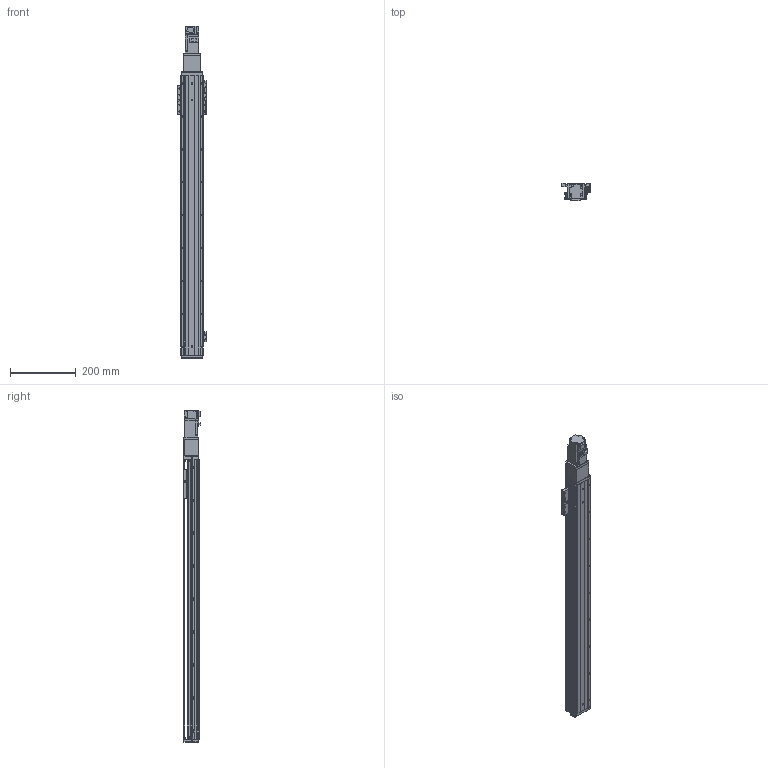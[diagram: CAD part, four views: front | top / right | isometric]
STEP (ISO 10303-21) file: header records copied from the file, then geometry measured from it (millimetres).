
FILE_DESCRIPTION (( 'STEP AP203' ), '1' );
FILE_NAME ('KTHAL60-700-BC-M10-C4L.step', '2022-03-19T08:35:58', ( '微软用户' ), ( '微软中国' ), 'SwSTEP 2.0', 'SolidWorks 2020', '' );
FILE_SCHEMA (( 'CONFIG_CONTROL_DESIGN' ));
Length unit declared in the file: millimetre
Products named in the file (18): GB¨uT 70.2-M3¡Á5_M3¡Á6; CTHA60-013; GBT 70.3-M3℅6; HG-KR13（三菱）; EE_SX911P_R; GBT77-2000M3-3; KTHAL60-700-BC-M10-C4L; KTHA60-001_850; CTHA60-017; GBT 70.1-M3℅6; KTHLA60-002; CTHA60-021; CTHA60-016; KTHA60-004; GBT 70.1-M4×16; CTHA60-006-2_CTHA60-006-2; KTHA60-005; CTHA60-027
Assembly tree (50 placements, depth 2):
  KTHAL60-700-BC-M10-C4L
    KTHA60-001_850
    KTHLA60-002
    KTHA60-004
    KTHA60-005
    GB¨uT 70.2-M3¡Á5_M3¡Á6  x5
    GBT 70.3-M3℅6  x6
    EE_SX911P_R  x3
    CTHA60-017  x3
    CTHA60-021  x2
    GBT 70.1-M4×16  x10
    GBT77-2000M3-3  x6
    GBT 70.1-M3℅6  x6
    CTHA60-016
    CTHA60-006-2_CTHA60-006-2
    CTHA60-027
    CTHA60-013
    HG-KR13（三菱）
Bounding box: 87.82 x 53.3 x 1008.6 mm (x, y, z)
Volume: 1770274.3 mm3; surface area: 457013.3 mm2
Topology: 53 solids, 53 shells, 2240 faces, 5330 edges, 3273 vertices
Faces by surface type: plane 1306, cylinder 537, cone 297, torus 86, sphere 14
Entity records: 38004 total; most frequent: CARTESIAN_POINT 6250, DIRECTION 6130, ORIENTED_EDGE 5864, EDGE_CURVE 2932, LINE 2096, VECTOR 2096, AXIS2_PLACEMENT_3D 2017, VERTEX_POINT 1841
